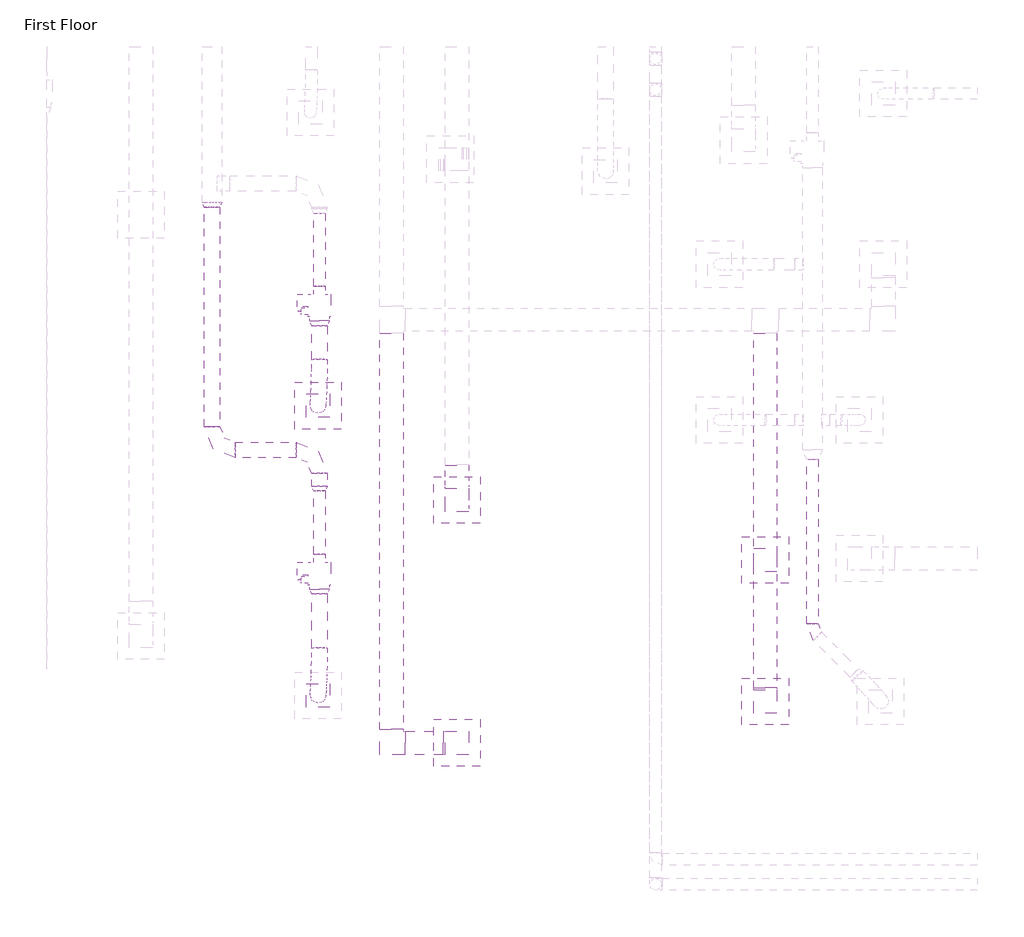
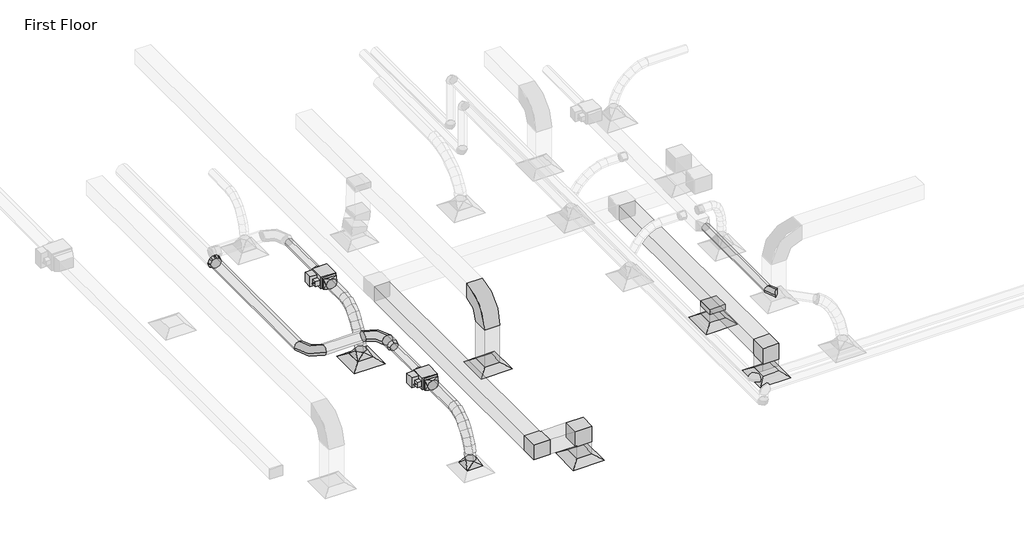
# One storey, part 2 of 61: 17 duct segments, 14 duct fittings, 5 air terminals, 2 proxies.
"""IFC4 building model written with IfcOpenShell, lengths in millimetres."""

from ifc_helpers import new_model, si_unit, point, frame, frame_2d, origin, place, context, project, spatial, polyline, circle_curve, ellipse_curve, trimmed, segment, composite_curve, outline, extrude, transform, mapped, element, save
from ifc_brep_helpers import plane_surface, cylinder_surface, advanced_brep
from components import m_exhaust_grill_er_600_x_600_face_300_x_300_connection_ff221211, m_vav_unit_single_duct_150_mm_ffdab17b, m_rectangular_elbow_mitered_standard_8eee5933, m_rectangular_elbow_radius_1_5_w_86011e9f, m_rectangular_takeoff_standard_c00386d1, m_rectangular_to_round_transition_angle_45_degree_60daae35, m_rectangular_to_round_transition_angle_45_degree_1b7ae117, m_round_elbow_1_5_d_fa134dda, m_round_elbow_1_5_d_b7bc3624, m_round_transition_angle_45_degree_540cdda2, m_round_transition_angle_45_degree_7939cf24

model = new_model("IFC4")

# Units and contexts
model_context = context("Model", 3, world=origin())
ifc_project = project(units=[si_unit("LENGTHUNIT", "METRE", prefix="MILLI")], contexts=[model_context])

# Site, building, storey
site = spatial("IfcSite", under=ifc_project)
building = spatial("IfcBuilding", under=site)
storey = spatial("IfcBuildingStorey", under=building, Name="First Floor", Elevation=0.0)

# Air terminals
placement = place(None, origin())
m_exhaust_grill_er_600_x_600_face_300_x_300_connection_shape = m_exhaust_grill_er_600_x_600_face_300_x_300_connection_ff221211(model_context)
element("IfcAirTerminal", 1, ObjectType="M_Exhaust Grill : ER-600 x 600 Face 300 x 300 Connection", at=placement, inside=storey, context=model_context, shape_type="MappedRepresentation", body=[
    mapped(m_exhaust_grill_er_600_x_600_face_300_x_300_connection_shape, transform((-44725.0192115, 944.0482035, 2680.0), x_axis=(1.0, 0.0, 0.0), y_axis=(0.0, 1.0, 0.0), z_axis=(0.0, 0.0, 1.0))),
])
element("IfcAirTerminal", 2, ObjectType="M_Exhaust Grill : ER-600 x 600 Face 300 x 300 Connection", at=placement, inside=storey, context=model_context, shape_type="MappedRepresentation", body=[
    mapped(m_exhaust_grill_er_600_x_600_face_300_x_300_connection_shape, transform((-40765.5775939, 1476.0224534, 2680.0), x_axis=(1.0, 0.0, 0.0), y_axis=(0.0, 1.0, 0.0), z_axis=(0.0, 0.0, 1.0))),
])
element("IfcAirTerminal", 3, ObjectType="M_Exhaust Grill : ER-600 x 600 Face 300 x 300 Connection", at=placement, inside=storey, context=model_context, shape_type="MappedRepresentation", body=[
    mapped(m_exhaust_grill_er_600_x_600_face_300_x_300_connection_shape, transform((-40765.5775939, 3291.5306721, 2680.0), x_axis=(1.0, 0.0, 0.0), y_axis=(0.0, 1.0, 0.0), z_axis=(0.0, 0.0, 1.0))),
])
element("IfcAirTerminal", 4, ObjectType="M_Return Register : RR-600 x 600 Face 300 x 300 Connection", at=placement, inside=storey, context=model_context, shape_type="MappedRepresentation", body=[
    mapped(m_exhaust_grill_er_600_x_600_face_300_x_300_connection_shape, transform((-44725.0192115, 4061.4140624, 2680.0), x_axis=(1.0, 0.0, 0.0), y_axis=(0.0, 1.0, 0.0), z_axis=(0.0, 0.0, 1.0))),
])
element("IfcAirTerminal", 5, ObjectType="M_Supply Diffuser : SD-600 x 600 Face 300 x 300 Connection", at=placement, inside=storey, context=model_context, shape_type="MappedRepresentation", body=[
    mapped(m_exhaust_grill_er_600_x_600_face_300_x_300_connection_shape, transform((-46507.9513831, 5273.4372457, 2680.0), x_axis=(1.0, 0.0, 0.0), y_axis=(0.0, 1.0, 0.0), z_axis=(0.0, 0.0, 1.0))),
])

# Proxies
m_vav_unit_single_duct_150_mm_shape = m_vav_unit_single_duct_150_mm_ffdab17b(model_context)
element("IfcBuildingElementProxy", 6, Name="M_VAV Unit - Single Duct : 150 mm", ObjectType="M_VAV Unit - Single Duct : 150 mm", at=placement, inside=storey, context=model_context, shape_type="MappedRepresentation", body=[
    mapped(m_vav_unit_single_duct_150_mm_shape, transform((-46489.7634544, 6705.5799415, 3500.0), x_axis=(0.0, -1.0, 0.0), y_axis=(1.0, 0.0, 0.0), z_axis=(0.0, 0.0, 1.0))),
])
element("IfcBuildingElementProxy", 7, Name="M_VAV Unit - Single Duct : 150 mm", ObjectType="M_VAV Unit - Single Duct : 150 mm", at=placement, inside=storey, context=model_context, shape_type="MappedRepresentation", body=[
    mapped(m_vav_unit_single_duct_150_mm_shape, transform((-46489.7634544, 3261.9132991, 3500.0), x_axis=(0.0, -1.0, 0.0), y_axis=(1.0, 0.0, 0.0), z_axis=(0.0, 0.0, 1.0))),
])

# Duct fittings
m_rectangular_elbow_mitered_standard_shape = m_rectangular_elbow_mitered_standard_8eee5933(model_context)
element("IfcDuctFitting", 8, ObjectType="M_Rectangular Elbow - Mitered : Standard", at=placement, inside=storey, context=model_context, shape_type="MappedRepresentation", body=[
    mapped(m_rectangular_elbow_mitered_standard_shape, transform((-40765.5775939, 1476.0224534, 3200.0), x_axis=(0.0, 0.0, 1.0), y_axis=(0.0, 1.0, 0.0), z_axis=(-1.0, 0.0, 0.0))),
])
element("IfcDuctFitting", 9, ObjectType="M_Rectangular Elbow - Mitered : Standard", at=placement, inside=storey, context=model_context, shape_type="MappedRepresentation", body=[
    mapped(m_rectangular_elbow_mitered_standard_shape, transform((-44725.0192115, 944.0482035, 3200.0), x_axis=(0.0, 0.0, 1.0), y_axis=(-1.0, 0.0, 0.0), z_axis=(0.0, -1.0, 0.0))),
])
element("IfcDuctFitting", 10, ObjectType="M_Rectangular Elbow - Mitered : Standard", at=placement, inside=storey, context=model_context, shape_type="MappedRepresentation", body=[
    mapped(m_rectangular_elbow_mitered_standard_shape, transform((-45565.5775939, 944.0482035, 3200.0), x_axis=(0.0, -1.0, 0.0), y_axis=(1.0, 0.0, 0.0), z_axis=(0.0, 0.0, 1.0))),
])
m_rectangular_elbow_radius_1_5_w_shape = m_rectangular_elbow_radius_1_5_w_86011e9f(model_context)
element("IfcDuctFitting", 11, ObjectType="M_Rectangular Elbow - Radius : 1.5 W", at=placement, inside=storey, context=model_context, shape_type="MappedRepresentation", body=[
    mapped(m_rectangular_elbow_radius_1_5_w_shape, transform((-44725.0192115, 4061.4140624, 4000.0), x_axis=(0.0, 0.0, 1.0), y_axis=(0.0, 1.0, 0.0), z_axis=(-1.0, 0.0, 0.0))),
])
m_rectangular_takeoff_standard_shape = m_rectangular_takeoff_standard_c00386d1(model_context)
element("IfcDuctFitting", 12, ObjectType="M_Rectangular Takeoff : Standard", at=placement, inside=storey, context=model_context, shape_type="MappedRepresentation", body=[
    mapped(m_rectangular_takeoff_standard_shape, transform((-40765.5775939, 3291.5306721, 3050.0), x_axis=(0.0, 0.0, -1.0), y_axis=(-1.0, 0.0, 0.0), z_axis=(0.0, 1.0, 0.0))),
])
m_rectangular_to_round_transition_angle_45_degree_shape = m_rectangular_to_round_transition_angle_45_degree_60daae35(model_context)
element("IfcDuctFitting", 13, ObjectType="M_Rectangular to Round Transition - Angle : 45 Degree", at=placement, inside=storey, context=model_context, shape_type="MappedRepresentation", body=[
    mapped(m_rectangular_to_round_transition_angle_45_degree_shape, transform((-46507.9513831, 1552.8513394, 2781.6), x_axis=(0.0, 0.0, 1.0), y_axis=(1.0, 0.0, 0.0), z_axis=(0.0, 1.0, 0.0))),
])
element("IfcDuctFitting", 14, ObjectType="M_Rectangular to Round Transition - Angle : 45 Degree", at=placement, inside=storey, context=model_context, shape_type="MappedRepresentation", body=[
    mapped(m_rectangular_to_round_transition_angle_45_degree_shape, transform((-46507.9513831, 5273.4372457, 2781.6), x_axis=(0.0, 0.0, 1.0), y_axis=(1.0, 0.0, 0.0), z_axis=(0.0, 1.0, 0.0))),
])
m_rectangular_to_round_transition_angle_45_degree_2_shape = m_rectangular_to_round_transition_angle_45_degree_1b7ae117(model_context)
element("IfcDuctFitting", 15, ObjectType="M_Rectangular to Round Transition - Angle : 45 Degree", at=placement, inside=storey, context=model_context, shape_type="MappedRepresentation", body=[
    mapped(m_rectangular_to_round_transition_angle_45_degree_2_shape, transform((-46489.7634544, 2919.1132991, 3619.05), x_axis=(0.0, -1.0, 0.0), y_axis=(1.0, 0.0, 0.0), z_axis=(0.0, 0.0, 1.0))),
])
element("IfcDuctFitting", 16, ObjectType="M_Rectangular to Round Transition - Angle : 45 Degree", at=placement, inside=storey, context=model_context, shape_type="MappedRepresentation", body=[
    mapped(m_rectangular_to_round_transition_angle_45_degree_2_shape, transform((-46489.7634544, 6362.7799415, 3619.05), x_axis=(0.0, -1.0, 0.0), y_axis=(1.0, 0.0, 0.0), z_axis=(0.0, 0.0, 1.0))),
])
m_round_elbow_1_5_d_shape = m_round_elbow_1_5_d_fa134dda(model_context)
element("IfcDuctFitting", 17, ObjectType="M_Round Elbow : 1.5 D", at=placement, inside=storey, context=model_context, shape_type="MappedRepresentation", body=[
    mapped(m_round_elbow_1_5_d_shape, transform((-40159.2211613, 2377.2961075, 3619.1), x_axis=(0.0, -1.0, 0.0), y_axis=(1.0, 0.0, 0.0), z_axis=(0.0, 0.0, 1.0))),
])
m_round_elbow_1_5_d_2_shape = m_round_elbow_1_5_d_b7bc3624(model_context)
element("IfcDuctFitting", 18, ObjectType="M_Round Elbow : 1.5 D", at=placement, inside=storey, context=model_context, shape_type="MappedRepresentation", body=[
    mapped(m_round_elbow_1_5_d_2_shape, transform((-46488.9134544, 4704.8087341, 3609.5), x_axis=(0.0, 1.0, 0.0), y_axis=(-1.0, 0.0, 0.0), z_axis=(0.0, 0.0, 1.0))),
])
element("IfcDuctFitting", 19, ObjectType="M_Round Elbow : 1.5 D", at=placement, inside=storey, context=model_context, shape_type="MappedRepresentation", body=[
    mapped(m_round_elbow_1_5_d_2_shape, transform((-47868.9134544, 4704.8087341, 3609.5), x_axis=(0.0, -1.0, 0.0), y_axis=(1.0, 0.0, 0.0), z_axis=(0.0, 0.0, 1.0))),
])
m_round_transition_angle_45_degree_shape = m_round_transition_angle_45_degree_540cdda2(model_context)
element("IfcDuctFitting", 20, ObjectType="M_Round Transition - Angle : 45 Degree", at=placement, inside=storey, context=model_context, shape_type="MappedRepresentation", body=[
    mapped(m_round_transition_angle_45_degree_shape, transform((-46488.9134544, 4238.5132992, 3609.5), x_axis=(0.0, -1.0, 0.0), y_axis=(1.0, 0.0, 0.0), z_axis=(0.0, 0.0, 1.0))),
])
m_round_transition_angle_45_degree_2_shape = m_round_transition_angle_45_degree_7939cf24(model_context)
element("IfcDuctFitting", 21, ObjectType="M_Round Transition - Angle : 45 Degree", at=placement, inside=storey, context=model_context, shape_type="MappedRepresentation", body=[
    mapped(m_round_transition_angle_45_degree_2_shape, transform((-47868.9134544, 7884.6373686, 3609.5), x_axis=(0.0, -1.0, 0.0), y_axis=(1.0, 0.0, 0.0), z_axis=(0.0, 0.0, 1.0))),
])

# Duct segments
element("IfcDuctSegment", 22, ObjectType="Flex - Round", at=placement, inside=storey, context=model_context, shape_type="AdvancedBrep", body=[
    advanced_brep(
    [(-46389.7657272, 2158.4390928, 3619.1), (-46489.6602129, 2174.4259571, 3520.2793954), (-46589.7611816, 2159.7875087, 3619.1), (-46489.8666959, 2143.8006445, 3717.9206046), (-46390.5509018, 2041.9829232, 3601.0538206), (-46490.3512001, 2071.9395448, 3504.3979853), (-46590.5390321, 2044.417638, 3601.2221547), (-46490.7387337, 2014.4610163, 3697.8779899), (-46407.9850438, 1550.2829009, 2901.9444599), (-46510.4646445, 1453.4787008, 2913.208486), (-46607.9177225, 1555.4197779, 2902.6768963), (-46505.4381218, 1652.223978, 2891.4128703), (-46392.6266795, 1930.2943331, 3550.6573592), (-46491.998277, 1983.3174867, 3464.4096739), (-46592.583957, 1934.389099, 3551.5747466), (-46493.2123595, 1881.3659453, 3637.8224319), (-46395.5526158, 1827.2370962, 3474.0305237), (-46494.4641102, 1896.465986, 3399.8323976), (-46595.4838416, 1832.2494552, 3475.6301752), (-46496.5723472, 1763.0205654, 3549.8283013), (-46398.8994266, 1735.896464, 3377.0563928), (-46497.3880918, 1816.6651412, 3315.1097787), (-46598.8154109, 1741.3247925, 3379.097669), (-46500.3267457, 1660.5561153, 3441.0442831), (-46402.2406378, 1659.388998, 3265.56417), (-46500.3532651, 1748.7682369, 3216.1654904), (-46602.1525798, 1664.9098866, 3267.7403316), (-46504.0399525, 1575.5306477, 3317.1390113), (-46405.1507275, 1600.8616723, 3145.3805756), (-46502.9321065, 1696.9029337, 3109.6621007), (-46605.068311, 1606.2691005, 3147.3237504), (-46507.2869321, 1510.2278391, 3183.0422252), (-46407.2051542, 1563.4682505, 3022.356112), (-46504.7167148, 1664.4205824, 3002.7950729), (-46607.1345869, 1568.660008, 3023.5897297), (-46509.6230264, 1467.7076761, 3043.1507688)],
    [
        (0, 1, circle_curve(frame((-46489.7634544, 2159.1133008, 3619.1), z_axis=(0.006662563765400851, 0.9881835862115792, 0.15313004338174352), x_axis=(0.9999772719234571, -0.006742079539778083, 0.0)), 100.0)),
        (1, 2, circle_curve(frame((-46489.7634544, 2159.1133008, 3619.1), z_axis=(0.006662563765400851, 0.9881835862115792, 0.15313004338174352), x_axis=(0.9999772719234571, -0.006742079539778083, 0.0)), 100.0)),
        (2, 3, circle_curve(frame((-46489.7634544, 2159.1133008, 3619.1), z_axis=(0.006662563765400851, 0.9881835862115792, 0.15313004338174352), x_axis=(0.9999772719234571, -0.006742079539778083, 0.0)), 100.0)),
        (3, 0, circle_curve(frame((-46489.7634544, 2159.1133008, 3619.1), z_axis=(0.006662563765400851, 0.9881835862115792, 0.15313004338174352), x_axis=(0.9999772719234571, -0.006742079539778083, 0.0)), 100.0)),
        (0, 4),
        (4, 5, ellipse_curve(frame((-46490.5449669, 2043.2002806, 3601.1379876), z_axis=(0.011909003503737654, 0.9585194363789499, 0.28477827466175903), x_axis=(-0.0381307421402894, 0.28502664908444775, -0.9577608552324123)), 100.92033, 100.0)),
        (5, 1),
        (5, 6, ellipse_curve(frame((-46490.5449669, 2043.2002806, 3601.1379876), z_axis=(0.011909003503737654, 0.9585194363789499, 0.28477827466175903), x_axis=(-0.0381307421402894, 0.28502664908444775, -0.9577608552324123)), 100.92033, 100.0)),
        (6, 2),
        (6, 7, ellipse_curve(frame((-46490.5449669, 2043.2002806, 3601.1379876), z_axis=(0.011909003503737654, 0.9585194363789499, 0.28477827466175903), x_axis=(-0.0381307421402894, 0.28502664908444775, -0.9577608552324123)), 100.92033, 100.0)),
        (7, 3),
        (7, 4, ellipse_curve(frame((-46490.5449669, 2043.2002806, 3601.1379876), z_axis=(0.011909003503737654, 0.9585194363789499, 0.28477827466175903), x_axis=(-0.0381307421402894, 0.28502664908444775, -0.9577608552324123)), 100.92033, 100.0)),
        (8, 9, circle_curve(frame((-46507.9513831, 1552.8513394, 2902.3106781), z_axis=(-0.006438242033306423, -0.10884935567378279, -0.9940374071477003), x_axis=(0.9996633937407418, -0.025684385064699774, -0.0036621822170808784)), 100.0)),
        (9, 10, circle_curve(frame((-46507.9513831, 1552.8513394, 2902.3106781), z_axis=(-0.006438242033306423, -0.10884935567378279, -0.9940374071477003), x_axis=(0.9996633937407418, -0.025684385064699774, -0.0036621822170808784)), 100.0)),
        (10, 11, circle_curve(frame((-46507.9513831, 1552.8513394, 2902.3106781), z_axis=(-0.006438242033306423, -0.10884935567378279, -0.9940374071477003), x_axis=(0.9996633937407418, -0.025684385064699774, -0.0036621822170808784)), 100.0)),
        (11, 8, circle_curve(frame((-46507.9513831, 1552.8513394, 2902.3106781), z_axis=(-0.006438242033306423, -0.10884935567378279, -0.9940374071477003), x_axis=(0.9996633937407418, -0.025684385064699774, -0.0036621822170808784)), 100.0)),
        (4, 12),
        (12, 13, ellipse_curve(frame((-46492.6053182, 1932.341716, 3551.1160529), z_axis=(0.019973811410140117, 0.861822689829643, 0.506816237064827), x_axis=(-0.027147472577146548, 0.507197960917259, -0.861401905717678)), 100.5834194, 100.0)),
        (13, 5),
        (13, 14, ellipse_curve(frame((-46492.6053182, 1932.341716, 3551.1160529), z_axis=(0.019973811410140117, 0.861822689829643, 0.506816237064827), x_axis=(-0.027147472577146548, 0.507197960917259, -0.861401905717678)), 100.5834194, 100.0)),
        (14, 6),
        (14, 15, ellipse_curve(frame((-46492.6053182, 1932.341716, 3551.1160529), z_axis=(0.019973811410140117, 0.861822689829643, 0.506816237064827), x_axis=(-0.027147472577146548, 0.507197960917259, -0.861401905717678)), 100.5834194, 100.0)),
        (15, 7),
        (15, 12, ellipse_curve(frame((-46492.6053182, 1932.341716, 3551.1160529), z_axis=(0.019973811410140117, 0.861822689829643, 0.506816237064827), x_axis=(-0.027147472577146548, 0.507197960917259, -0.861401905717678)), 100.5834194, 100.0)),
        (12, 16),
        (16, 17, ellipse_curve(frame((-46495.5182287, 1829.7432757, 3474.8303494), z_axis=(0.024039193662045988, 0.7467392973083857, 0.6646822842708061), x_axis=(-0.013302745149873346, 0.6650544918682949, -0.746676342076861)), 100.3880892, 100.0)),
        (17, 13),
        (17, 18, ellipse_curve(frame((-46495.5182287, 1829.7432757, 3474.8303494), z_axis=(0.024039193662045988, 0.7467392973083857, 0.6646822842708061), x_axis=(-0.013302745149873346, 0.6650544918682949, -0.746676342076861)), 100.3880892, 100.0)),
        (18, 14),
        (18, 19, ellipse_curve(frame((-46495.5182287, 1829.7432757, 3474.8303494), z_axis=(0.024039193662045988, 0.7467392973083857, 0.6646822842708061), x_axis=(-0.013302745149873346, 0.6650544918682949, -0.746676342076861)), 100.3880892, 100.0)),
        (19, 15),
        (19, 16, ellipse_curve(frame((-46495.5182287, 1829.7432757, 3474.8303494), z_axis=(0.024039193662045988, 0.7467392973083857, 0.6646822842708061), x_axis=(-0.013302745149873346, 0.6650544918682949, -0.746676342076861)), 100.3880892, 100.0)),
        (16, 20),
        (20, 21, ellipse_curve(frame((-46498.8574188, 1738.6106283, 3378.0770309), z_axis=(0.02498261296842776, 0.6273927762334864, 0.7783021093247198), x_axis=(0.0026811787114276, 0.7785002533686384, -0.6276385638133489)), 100.2973048, 100.0)),
        (21, 17),
        (21, 22, ellipse_curve(frame((-46498.8574188, 1738.6106283, 3378.0770309), z_axis=(0.02498261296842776, 0.6273927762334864, 0.7783021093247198), x_axis=(0.0026811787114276, 0.7785002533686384, -0.6276385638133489)), 100.2973048, 100.0)),
        (22, 18),
        (22, 23, ellipse_curve(frame((-46498.8574188, 1738.6106283, 3378.0770309), z_axis=(0.02498261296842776, 0.6273927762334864, 0.7783021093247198), x_axis=(0.0026811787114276, 0.7785002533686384, -0.6276385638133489)), 100.2973048, 100.0)),
        (23, 19),
        (23, 20, ellipse_curve(frame((-46498.8574188, 1738.6106283, 3378.0770309), z_axis=(0.02498261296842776, 0.6273927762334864, 0.7783021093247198), x_axis=(0.0026811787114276, 0.7785002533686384, -0.6276385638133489)), 100.2973048, 100.0)),
        (20, 24),
        (24, 25, ellipse_curve(frame((-46502.1966088, 1662.1494423, 3266.6522508), z_axis=(0.023297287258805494, 0.5030600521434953, 0.8639373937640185), x_axis=(0.019838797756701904, 0.8637691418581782, -0.5034970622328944)), 100.2752542, 100.0)),
        (25, 21),
        (25, 26, ellipse_curve(frame((-46502.1966088, 1662.1494423, 3266.6522508), z_axis=(0.023297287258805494, 0.5030600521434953, 0.8639373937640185), x_axis=(0.019838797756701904, 0.8637691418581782, -0.5034970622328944)), 100.2752542, 100.0)),
        (26, 22),
        (26, 27, ellipse_curve(frame((-46502.1966088, 1662.1494423, 3266.6522508), z_axis=(0.023297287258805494, 0.5030600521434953, 0.8639373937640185), x_axis=(0.019838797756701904, 0.8637691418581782, -0.5034970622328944)), 100.2752542, 100.0)),
        (27, 23),
        (27, 24, ellipse_curve(frame((-46502.1966088, 1662.1494423, 3266.6522508), z_axis=(0.023297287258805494, 0.5030600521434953, 0.8639373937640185), x_axis=(0.019838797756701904, 0.8637691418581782, -0.5034970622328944)), 100.2752542, 100.0)),
        (24, 28),
        (28, 29, ellipse_curve(frame((-46505.1095193, 1603.5653864, 3146.352163), z_axis=(0.018929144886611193, 0.36539209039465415, 0.9306612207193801), x_axis=(0.03663496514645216, 0.9299494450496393, -0.36585777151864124)), 100.3135765, 100.0)),
        (29, 25),
        (29, 30, ellipse_curve(frame((-46505.1095193, 1603.5653864, 3146.352163), z_axis=(0.018929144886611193, 0.36539209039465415, 0.9306612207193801), x_axis=(0.03663496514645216, 0.9299494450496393, -0.36585777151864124)), 100.3135765, 100.0)),
        (30, 26),
        (30, 31, ellipse_curve(frame((-46505.1095193, 1603.5653864, 3146.352163), z_axis=(0.018929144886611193, 0.36539209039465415, 0.9306612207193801), x_axis=(0.03663496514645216, 0.9299494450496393, -0.36585777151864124)), 100.3135765, 100.0)),
        (31, 27),
        (31, 28, ellipse_curve(frame((-46505.1095193, 1603.5653864, 3146.352163), z_axis=(0.018929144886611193, 0.36539209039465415, 0.9306612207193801), x_axis=(0.03663496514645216, 0.9299494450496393, -0.36585777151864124)), 100.3135765, 100.0)),
        (28, 32),
        (32, 33, ellipse_curve(frame((-46507.1698706, 1566.0641293, 3022.9729208), z_axis=(0.011255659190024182, 0.2006827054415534, 0.9795916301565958), x_axis=(0.05128328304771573, 0.9782485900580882, -0.20099681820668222)), 100.4351479, 100.0)),
        (33, 29),
        (33, 34, ellipse_curve(frame((-46507.1698706, 1566.0641293, 3022.9729208), z_axis=(0.011255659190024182, 0.2006827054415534, 0.9795916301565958), x_axis=(0.05128328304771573, 0.9782485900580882, -0.20099681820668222)), 100.4351479, 100.0)),
        (34, 30),
        (34, 35, ellipse_curve(frame((-46507.1698706, 1566.0641293, 3022.9729208), z_axis=(0.011255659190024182, 0.2006827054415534, 0.9795916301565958), x_axis=(0.05128328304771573, 0.9782485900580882, -0.20099681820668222)), 100.4351479, 100.0)),
        (35, 31),
        (35, 32, ellipse_curve(frame((-46507.1698706, 1566.0641293, 3022.9729208), z_axis=(0.011255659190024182, 0.2006827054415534, 0.9795916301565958), x_axis=(0.05128328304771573, 0.9782485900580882, -0.20099681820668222)), 100.4351479, 100.0)),
        (32, 8),
        (11, 33),
        (10, 34),
        (9, 35),
    ],
    [
        plane_surface(frame((-46489.7634544, 2174.426645, 3520.279448), z_axis=(0.006662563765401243, 0.9881835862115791, 0.15313004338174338), x_axis=(0.9999778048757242, -0.006583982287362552, -0.0010202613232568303))),
        cylinder_surface(frame((-46489.7634544, 2159.1133008, 3619.1), z_axis=(0.006662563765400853, 0.9881835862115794, 0.15313004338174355), x_axis=(0.9999772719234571, -0.006742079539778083, 0.0)), 100.0),
        plane_surface(frame((-46507.9513831, 1652.2571404, 2891.4255169), z_axis=(-0.006438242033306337, -0.10884935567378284, -0.9940374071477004), x_axis=(0.9999792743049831, -0.000700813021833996, -0.006399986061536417))),
        cylinder_surface(frame((-46490.5449669, 2043.2002806, 3601.1379876), z_axis=(0.01693823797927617, 0.9113730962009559, 0.4112325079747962), x_axis=(0.999847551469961, -0.017182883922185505, -0.0031019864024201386)), 100.0),
        cylinder_surface(frame((-46492.6053182, 1932.341716, 3551.1160529), z_axis=(0.022777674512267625, 0.8022745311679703, 0.5965205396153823), x_axis=(0.9997041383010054, -0.02337082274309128, -0.006740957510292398)), 100.0),
        cylinder_surface(frame((-46495.5182287, 1829.7432757, 3474.8303494), z_axis=(0.02511484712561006, 0.6854304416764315, 0.7277048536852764), x_axis=(0.9996031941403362, -0.026506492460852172, -0.009532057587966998)), 100.0),
        cylinder_surface(frame((-46498.8574188, 1738.6106283, 3378.0770309), z_axis=(0.024702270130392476, 0.5656356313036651, 0.8242852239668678), x_axis=(0.9995570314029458, -0.02766578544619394, -0.01097020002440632)), 100.0),
        cylinder_surface(frame((-46502.1966088, 1662.1494423, 3266.6522508), z_axis=(0.021764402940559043, 0.4377226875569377, 0.8988465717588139), x_axis=(0.9995620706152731, -0.027556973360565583, -0.010783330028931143)), 100.0),
        cylinder_surface(frame((-46505.1095193, 1603.5653864, 3146.352163), z_axis=(0.01597554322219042, 0.2907770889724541, 0.9566574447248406), x_axis=(0.9996068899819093, -0.0266918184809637, -0.008579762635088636)), 100.0),
        cylinder_surface(frame((-46507.1698706, 1566.0641293, 3022.9729208), z_axis=(0.006438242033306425, 0.10884935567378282, 0.9940374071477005), x_axis=(0.9996633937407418, -0.025684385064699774, -0.0036621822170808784)), 100.0),
    ],
    [
        (0, [[1, 2, 3, 4]]),
        (1, [[-1, 5, 6, 7]]),
        (1, [[-2, -7, 8, 9]]),
        (1, [[-3, -9, 10, 11]]),
        (1, [[-4, -11, 12, -5]]),
        (2, [[13, 14, 15, 16]]),
        (3, [[-6, 17, 18, 19]]),
        (3, [[-8, -19, 20, 21]]),
        (3, [[-10, -21, 22, 23]]),
        (3, [[-12, -23, 24, -17]]),
        (4, [[-18, 25, 26, 27]]),
        (4, [[-20, -27, 28, 29]]),
        (4, [[-22, -29, 30, 31]]),
        (4, [[-24, -31, 32, -25]]),
        (5, [[-26, 33, 34, 35]]),
        (5, [[-28, -35, 36, 37]]),
        (5, [[-30, -37, 38, 39]]),
        (5, [[-32, -39, 40, -33]]),
        (6, [[-34, 41, 42, 43]]),
        (6, [[-36, -43, 44, 45]]),
        (6, [[-38, -45, 46, 47]]),
        (6, [[-40, -47, 48, -41]]),
        (7, [[-42, 49, 50, 51]]),
        (7, [[-44, -51, 52, 53]]),
        (7, [[-46, -53, 54, 55]]),
        (7, [[-48, -55, 56, -49]]),
        (8, [[-50, 57, 58, 59]]),
        (8, [[-52, -59, 60, 61]]),
        (8, [[-54, -61, 62, 63]]),
        (8, [[-56, -63, 64, -57]]),
        (9, [[-58, 65, -16, 66]]),
        (9, [[-60, -66, -15, 67]]),
        (9, [[-62, -67, -14, 68]]),
        (9, [[-64, -68, -13, -65]]),
    ],
),
])
element("IfcDuctSegment", 23, ObjectType="Flex - Round", at=placement, inside=storey, context=model_context, shape_type="AdvancedBrep", body=[
    advanced_brep(
    [(-46389.765798, 5862.0953159, 3619.1), (-46489.6561805, 5878.4485639, 3520.335215), (-46589.7611108, 5863.464567, 3619.1), (-46489.8707283, 5847.111319, 3717.864785), (-46390.5511083, 5747.3914591, 3600.9018571), (-46490.343271, 5778.09087, 3504.4131378), (-46590.5388256, 5749.8701245, 3601.0778693), (-46490.7466629, 5719.1707136, 3697.5665886), (-46407.9859482, 5270.8355733, 2901.9323726), (-46510.4988798, 5174.0243356, 2912.8265502), (-46607.9168181, 5276.0389181, 2902.6889836), (-46505.4038865, 5372.8501558, 2891.794806), (-46392.6274888, 5638.0924576, 3550.1282292), (-46491.9724939, 5692.3298849, 3464.573832), (-46592.5831476, 5642.2586569, 3551.0881664), (-46493.2381425, 5588.0212296, 3636.6425636), (-46395.553875, 5537.8054146, 3473.0431844), (-46494.4232204, 5608.3436637, 3400.0183179), (-46595.4825824, 5542.8952354, 3474.7130578), (-46496.613237, 5472.3569863, 3547.7379243), (-46398.9008514, 5449.3404686, 3375.6612665), (-46497.3398279, 5531.2539301, 3315.1581959), (-46598.8139861, 5454.8418956, 3377.7842347), (-46500.3750096, 5372.928434, 3438.2873053), (-46402.2420136, 5375.5399395, 3263.9377721), (-46500.3049648, 5465.7591541, 3216.0084292), (-46602.151204, 5381.1284916, 3266.1926352), (-46504.0882528, 5290.909277, 3314.1219781), (-46405.1519299, 5319.279126, 3143.8247561), (-46502.8890529, 5415.7979571, 3109.3446666), (-46605.0671086, 5324.7518992, 3145.8324391), (-46507.3299856, 5228.2330681, 3180.3125287), (-46407.2061223, 5283.4422213, 3021.2995683), (-46504.6808381, 5384.53894, 3002.4711245), (-46607.1336189, 5288.7000993, 3022.5725317), (-46509.6589031, 5187.6033806, 3041.4009754)],
    [
        (0, 1, circle_curve(frame((-46489.7634544, 5862.7799415, 3619.1), z_axis=(0.006761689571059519, 0.9876247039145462, 0.1566898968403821), x_axis=(0.9999765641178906, -0.00684625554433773, 0.0)), 100.0)),
        (1, 2, circle_curve(frame((-46489.7634544, 5862.7799415, 3619.1), z_axis=(0.006761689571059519, 0.9876247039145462, 0.1566898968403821), x_axis=(0.9999765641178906, -0.00684625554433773, 0.0)), 100.0)),
        (2, 3, circle_curve(frame((-46489.7634544, 5862.7799415, 3619.1), z_axis=(0.006761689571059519, 0.9876247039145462, 0.1566898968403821), x_axis=(0.9999765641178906, -0.00684625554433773, 0.0)), 100.0)),
        (3, 0, circle_curve(frame((-46489.7634544, 5862.7799415, 3619.1), z_axis=(0.006761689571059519, 0.9876247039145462, 0.1566898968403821), x_axis=(0.9999765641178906, -0.00684625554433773, 0.0)), 100.0)),
        (0, 4),
        (4, 5, ellipse_curve(frame((-46490.5449669, 5748.6307918, 3600.9898632), z_axis=(0.01211063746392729, 0.9564112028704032, 0.2917720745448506), x_axis=(-0.03780338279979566, 0.2920227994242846, -0.9556639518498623)), 100.9718586, 100.0)),
        (5, 1),
        (5, 6, ellipse_curve(frame((-46490.5449669, 5748.6307918, 3600.9898632), z_axis=(0.01211063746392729, 0.9564112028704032, 0.2917720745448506), x_axis=(-0.03780338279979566, 0.2920227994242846, -0.9556639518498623)), 100.9718586, 100.0)),
        (6, 2),
        (6, 7, ellipse_curve(frame((-46490.5449669, 5748.6307918, 3600.9898632), z_axis=(0.01211063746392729, 0.9564112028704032, 0.2917720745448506), x_axis=(-0.03780338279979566, 0.2920227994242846, -0.9556639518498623)), 100.9718586, 100.0)),
        (7, 3),
        (7, 4, ellipse_curve(frame((-46490.5449669, 5748.6307918, 3600.9898632), z_axis=(0.01211063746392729, 0.9564112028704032, 0.2917720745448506), x_axis=(-0.03780338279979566, 0.2920227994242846, -0.9556639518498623)), 100.9718586, 100.0)),
        (8, 9, circle_curve(frame((-46507.9513831, 5273.4372457, 2902.3106781), z_axis=(-0.0064967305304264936, -0.10502599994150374, -0.9944482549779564), x_axis=(0.9996543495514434, -0.026016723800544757, -0.003783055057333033)), 100.0)),
        (9, 10, circle_curve(frame((-46507.9513831, 5273.4372457, 2902.3106781), z_axis=(-0.0064967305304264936, -0.10502599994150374, -0.9944482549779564), x_axis=(0.9996543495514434, -0.026016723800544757, -0.003783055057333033)), 100.0)),
        (10, 11, circle_curve(frame((-46507.9513831, 5273.4372457, 2902.3106781), z_axis=(-0.0064967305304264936, -0.10502599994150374, -0.9944482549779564), x_axis=(0.9996543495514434, -0.026016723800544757, -0.003783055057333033)), 100.0)),
        (11, 8, circle_curve(frame((-46507.9513831, 5273.4372457, 2902.3106781), z_axis=(-0.0064967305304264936, -0.10502599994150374, -0.9944482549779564), x_axis=(0.9996543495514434, -0.026016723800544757, -0.003783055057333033)), 100.0)),
        (4, 12),
        (12, 13, ellipse_curve(frame((-46492.6053182, 5640.1755573, 3550.6081978), z_axis=(0.020301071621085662, 0.8549012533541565, 0.518393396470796), x_axis=(-0.02682636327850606, 0.5187793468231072, -0.8544871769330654)), 100.6107474, 100.0)),
        (13, 5),
        (13, 14, ellipse_curve(frame((-46492.6053182, 5640.1755573, 3550.6081978), z_axis=(0.020301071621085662, 0.8549012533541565, 0.518393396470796), x_axis=(-0.02682636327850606, 0.5187793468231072, -0.8544871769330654)), 100.6107474, 100.0)),
        (14, 6),
        (14, 15, ellipse_curve(frame((-46492.6053182, 5640.1755573, 3550.6081978), z_axis=(0.020301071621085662, 0.8549012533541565, 0.518393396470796), x_axis=(-0.02682636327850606, 0.5187793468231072, -0.8544871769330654)), 100.6107474, 100.0)),
        (15, 7),
        (15, 12, ellipse_curve(frame((-46492.6053182, 5640.1755573, 3550.6081978), z_axis=(0.020301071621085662, 0.8549012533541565, 0.518393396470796), x_axis=(-0.02682636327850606, 0.5187793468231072, -0.8544871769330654)), 100.6107474, 100.0)),
        (12, 16),
        (16, 17, ellipse_curve(frame((-46495.5182287, 5540.350325, 3473.8781211), z_axis=(0.02437683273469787, 0.7353221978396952, 0.6772791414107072), x_axis=(-0.012953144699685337, 0.6776559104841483, -0.7352650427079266)), 100.3972579, 100.0)),
        (17, 13),
        (17, 18, ellipse_curve(frame((-46495.5182287, 5540.350325, 3473.8781211), z_axis=(0.02437683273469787, 0.7353221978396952, 0.6772791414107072), x_axis=(-0.012953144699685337, 0.6776559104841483, -0.7352650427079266)), 100.3972579, 100.0)),
        (18, 14),
        (18, 19, ellipse_curve(frame((-46495.5182287, 5540.350325, 3473.8781211), z_axis=(0.02437683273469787, 0.7353221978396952, 0.6772791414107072), x_axis=(-0.012953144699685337, 0.6776559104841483, -0.7352650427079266)), 100.3972579, 100.0)),
        (19, 15),
        (19, 16, ellipse_curve(frame((-46495.5182287, 5540.350325, 3473.8781211), z_axis=(0.02437683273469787, 0.7353221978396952, 0.6772791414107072), x_axis=(-0.012953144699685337, 0.6776559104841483, -0.7352650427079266)), 100.3972579, 100.0)),
        (16, 20),
        (20, 21, ellipse_curve(frame((-46498.8574188, 5452.0911821, 3376.7227506), z_axis=(0.02526291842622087, 0.6134026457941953, 0.7893661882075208), x_axis=(0.0031679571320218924, 0.7895651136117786, -0.61365861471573)), 100.2957959, 100.0)),
        (21, 17),
        (21, 22, ellipse_curve(frame((-46498.8574188, 5452.0911821, 3376.7227506), z_axis=(0.02526291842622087, 0.6134026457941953, 0.7893661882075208), x_axis=(0.0031679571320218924, 0.7895651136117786, -0.61365861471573)), 100.2957959, 100.0)),
        (22, 18),
        (22, 23, ellipse_curve(frame((-46498.8574188, 5452.0911821, 3376.7227506), z_axis=(0.02526291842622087, 0.6134026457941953, 0.7893661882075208), x_axis=(0.0031679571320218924, 0.7895651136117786, -0.61365861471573)), 100.2957959, 100.0)),
        (23, 19),
        (23, 20, ellipse_curve(frame((-46498.8574188, 5452.0911821, 3376.7227506), z_axis=(0.02526291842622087, 0.6134026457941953, 0.7893661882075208), x_axis=(0.0031679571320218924, 0.7895651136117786, -0.61365861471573)), 100.2957959, 100.0)),
        (20, 24),
        (24, 25, ellipse_curve(frame((-46502.1966088, 5378.3342156, 3265.0652036), z_axis=(0.0235018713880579, 0.4888315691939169, 0.8720615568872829), x_axis=(0.02068645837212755, 0.8718779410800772, -0.48928613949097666)), 100.2659738, 100.0)),
        (25, 21),
        (25, 26, ellipse_curve(frame((-46502.1966088, 5378.3342156, 3265.0652036), z_axis=(0.0235018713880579, 0.4888315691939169, 0.8720615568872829), x_axis=(0.02068645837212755, 0.8718779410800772, -0.48928613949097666)), 100.2659738, 100.0)),
        (26, 22),
        (26, 27, ellipse_curve(frame((-46502.1966088, 5378.3342156, 3265.0652036), z_axis=(0.0235018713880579, 0.4888315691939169, 0.8720615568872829), x_axis=(0.02068645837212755, 0.8718779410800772, -0.48928613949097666)), 100.2659738, 100.0)),
        (27, 23),
        (27, 24, ellipse_curve(frame((-46502.1966088, 5378.3342156, 3265.0652036), z_axis=(0.0235018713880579, 0.4888315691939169, 0.8720615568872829), x_axis=(0.02068645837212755, 0.8718779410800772, -0.48928613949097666)), 100.2659738, 100.0)),
        (24, 28),
        (28, 29, ellipse_curve(frame((-46505.1095193, 5322.0155126, 3144.8285976), z_axis=(0.019067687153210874, 0.35342130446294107, 0.9352699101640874), x_axis=(0.03809210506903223, 0.9345040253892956, -0.3539084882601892)), 100.2955727, 100.0)),
        (29, 25),
        (29, 30, ellipse_curve(frame((-46505.1095193, 5322.0155126, 3144.8285976), z_axis=(0.019067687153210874, 0.35342130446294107, 0.9352699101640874), x_axis=(0.03809210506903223, 0.9345040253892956, -0.3539084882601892)), 100.2955727, 100.0)),
        (30, 26),
        (30, 31, ellipse_curve(frame((-46505.1095193, 5322.0155126, 3144.8285976), z_axis=(0.019067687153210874, 0.35342130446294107, 0.9352699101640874), x_axis=(0.03809210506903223, 0.9345040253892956, -0.3539084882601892)), 100.2955727, 100.0)),
        (31, 27),
        (31, 28, ellipse_curve(frame((-46505.1095193, 5322.0155126, 3144.8285976), z_axis=(0.019067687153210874, 0.35342130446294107, 0.9352699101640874), x_axis=(0.03809210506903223, 0.9345040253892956, -0.3539084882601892)), 100.2955727, 100.0)),
        (28, 32),
        (32, 33, ellipse_curve(frame((-46507.1698706, 5286.0711603, 3021.93605), z_axis=(0.011338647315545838, 0.19363714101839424, 0.9810076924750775), x_axis=(0.05349074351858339, 0.9795485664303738, -0.19396738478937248)), 100.4044304, 100.0)),
        (33, 29),
        (33, 34, ellipse_curve(frame((-46507.1698706, 5286.0711603, 3021.93605), z_axis=(0.011338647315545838, 0.19363714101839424, 0.9810076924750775), x_axis=(0.05349074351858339, 0.9795485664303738, -0.19396738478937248)), 100.4044304, 100.0)),
        (34, 30),
        (34, 35, ellipse_curve(frame((-46507.1698706, 5286.0711603, 3021.93605), z_axis=(0.011338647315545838, 0.19363714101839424, 0.9810076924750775), x_axis=(0.05349074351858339, 0.9795485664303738, -0.19396738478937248)), 100.4044304, 100.0)),
        (35, 31),
        (35, 32, ellipse_curve(frame((-46507.1698706, 5286.0711603, 3021.93605), z_axis=(0.011338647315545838, 0.19363714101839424, 0.9810076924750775), x_axis=(0.05349074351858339, 0.9795485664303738, -0.19396738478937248)), 100.4044304, 100.0)),
        (32, 8),
        (11, 33),
        (10, 34),
        (9, 35),
    ],
    [
        plane_surface(frame((-46489.7634544, 5878.4492894, 3520.3352718), z_axis=(0.006761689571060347, 0.9876247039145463, 0.15668989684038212), x_axis=(0.9999771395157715, -0.006678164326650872, -0.0010595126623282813))),
        cylinder_surface(frame((-46489.7634544, 5862.7799415, 3619.1), z_axis=(0.00676168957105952, 0.9876247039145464, 0.15668989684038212), x_axis=(0.9999765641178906, -0.00684625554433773, 0.0)), 100.0),
        plane_surface(frame((-46507.9513831, 5372.8841699, 2891.8078565), z_axis=(-0.006496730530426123, -0.10502599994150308, -0.9944482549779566), x_axis=(0.9999788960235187, -0.0006823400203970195, -0.006460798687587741))),
        cylinder_surface(frame((-46490.5449669, 5748.6307918, 3600.9898632), z_axis=(0.01722645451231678, 0.9067867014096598, 0.42123761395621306), x_axis=(0.9998418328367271, -0.01748636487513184, -0.003245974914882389)), 100.0),
        cylinder_surface(frame((-46492.6053182, 5640.1755573, 3550.6081978), z_axis=(0.023129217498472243, 0.7926366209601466, 0.6092554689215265), x_axis=(0.9996929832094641, -0.023754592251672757, -0.007046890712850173)), 100.0),
        cylinder_surface(frame((-46495.5182287, 5540.350325, 3473.8781211), z_axis=(0.025431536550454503, 0.6721886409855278, 0.7399430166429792), x_axis=(0.9995891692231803, -0.026886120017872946, -0.009931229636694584)), 100.0),
        cylinder_surface(frame((-46498.8574188, 5452.0911821, 3376.7227506), z_axis=(0.024945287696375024, 0.5509985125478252, 0.8341333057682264), x_axis=(0.9995426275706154, -0.028016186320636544, -0.0113854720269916)), 100.0),
        cylinder_surface(frame((-46502.1966088, 5378.3342156, 3265.0652036), z_axis=(0.021933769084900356, 0.42407119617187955, 0.9053632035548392), x_axis=(0.9995488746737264, -0.02788624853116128, -0.011153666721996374)), 100.0),
        cylinder_surface(frame((-46505.1095193, 5322.0155126, 3144.8285976), z_axis=(0.016089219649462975, 0.28068833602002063, 0.9596641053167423), x_axis=(0.9995957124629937, -0.027018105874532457, -0.00885627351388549)), 100.0),
        cylinder_surface(frame((-46507.1698706, 5286.0711603, 3021.93605), z_axis=(0.006496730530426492, 0.10502599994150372, 0.9944482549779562), x_axis=(0.9996543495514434, -0.026016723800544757, -0.003783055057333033)), 100.0),
    ],
    [
        (0, [[1, 2, 3, 4]]),
        (1, [[-1, 5, 6, 7]]),
        (1, [[-2, -7, 8, 9]]),
        (1, [[-3, -9, 10, 11]]),
        (1, [[-4, -11, 12, -5]]),
        (2, [[13, 14, 15, 16]]),
        (3, [[-6, 17, 18, 19]]),
        (3, [[-8, -19, 20, 21]]),
        (3, [[-10, -21, 22, 23]]),
        (3, [[-12, -23, 24, -17]]),
        (4, [[-18, 25, 26, 27]]),
        (4, [[-20, -27, 28, 29]]),
        (4, [[-22, -29, 30, 31]]),
        (4, [[-24, -31, 32, -25]]),
        (5, [[-26, 33, 34, 35]]),
        (5, [[-28, -35, 36, 37]]),
        (5, [[-30, -37, 38, 39]]),
        (5, [[-32, -39, 40, -33]]),
        (6, [[-34, 41, 42, 43]]),
        (6, [[-36, -43, 44, 45]]),
        (6, [[-38, -45, 46, 47]]),
        (6, [[-40, -47, 48, -41]]),
        (7, [[-42, 49, 50, 51]]),
        (7, [[-44, -51, 52, 53]]),
        (7, [[-46, -53, 54, 55]]),
        (7, [[-48, -55, 56, -49]]),
        (8, [[-50, 57, 58, 59]]),
        (8, [[-52, -59, 60, 61]]),
        (8, [[-54, -61, 62, 63]]),
        (8, [[-56, -63, 64, -57]]),
        (9, [[-58, 65, -16, 66]]),
        (9, [[-60, -66, -15, 67]]),
        (9, [[-62, -67, -14, 68]]),
        (9, [[-64, -68, -13, -65]]),
    ],
),
])
element("IfcDuctSegment", 24, ObjectType="Mitered Elbows / Taps", at=placement, inside=storey, context=model_context, shape_type="SweptSolid", body=[
    extrude(outline(polyline([(-40615.5775939, 1651.0224534), (-40915.5775939, 1651.0224534), (-40915.5775939, 6201.0224534), (-40615.5775939, 6201.0224534), (-40615.5775939, 1651.0224534)])), frame((0.0, 0.0, 3050.0), z_axis=(0.0, 0.0, 1.0), x_axis=(1.0, 0.0, 0.0)), (0.0, 0.0, 1.0), 300.0),
])
element("IfcDuctSegment", 25, ObjectType="Mitered Elbows / Taps", at=placement, inside=storey, context=model_context, shape_type="SweptSolid", body=[
    extrude(outline(polyline([(-40915.5775939, 1626.0224534), (-40615.5775939, 1626.0224534), (-40615.5775939, 1326.0224534), (-40915.5775939, 1326.0224534), (-40915.5775939, 1626.0224534)])), frame((0.0, 0.0, 2781.6), z_axis=(0.0, 0.0, 1.0), x_axis=(1.0, 0.0, 0.0)), (0.0, 0.0, 1.0), 243.4),
])
element("IfcDuctSegment", 26, ObjectType="Mitered Elbows / Taps", at=placement, inside=storey, context=model_context, shape_type="SweptSolid", body=[
    extrude(outline(polyline([(-40915.5775939, 3141.5306721), (-40915.5775939, 3441.5306721), (-40615.5775939, 3441.5306721), (-40615.5775939, 3141.5306721), (-40915.5775939, 3141.5306721)])), frame((0.0, 0.0, 2781.6), z_axis=(0.0, 0.0, 1.0), x_axis=(1.0, 0.0, 0.0)), (0.0, 0.0, 1.0), 168.4),
])
element("IfcDuctSegment", 27, ObjectType="Mitered Elbows / Taps", at=placement, inside=storey, context=model_context, shape_type="SweptSolid", body=[
    extrude(outline(polyline([(-45715.5775939, 6201.0224534), (-45415.5775939, 6201.0224534), (-45415.5775939, 1119.0482035), (-45715.5775939, 1119.0482035), (-45715.5775939, 6201.0224534)])), frame((0.0, 0.0, 3050.0), z_axis=(0.0, 0.0, 1.0), x_axis=(1.0, 0.0, 0.0)), (0.0, 0.0, 1.0), 300.0),
])
element("IfcDuctSegment", 28, ObjectType="Mitered Elbows / Taps", at=placement, inside=storey, context=model_context, shape_type="SweptSolid", body=[
    extrude(outline(polyline([(-44900.0192115, 1094.0482035), (-44900.0192115, 794.0482035), (-45390.5775939, 794.0482035), (-45390.5775939, 1094.0482035), (-44900.0192115, 1094.0482035)])), frame((0.0, 0.0, 3050.0), z_axis=(0.0, 0.0, 1.0), x_axis=(1.0, 0.0, 0.0)), (0.0, 0.0, 1.0), 300.0),
])
element("IfcDuctSegment", 29, ObjectType="Mitered Elbows / Taps", at=placement, inside=storey, context=model_context, shape_type="SweptSolid", body=[
    extrude(outline(polyline([(-44875.0192115, 794.0482035), (-44875.0192115, 1094.0482035), (-44575.0192115, 1094.0482035), (-44575.0192115, 794.0482035), (-44875.0192115, 794.0482035)])), frame((0.0, 0.0, 2781.6), z_axis=(0.0, 0.0, 1.0), x_axis=(1.0, 0.0, 0.0)), (0.0, 0.0, 1.0), 243.4),
])
element("IfcDuctSegment", 30, ObjectType="Radius Elbows / Taps", at=placement, inside=storey, context=model_context, shape_type="SweptSolid", body=[
    extrude(outline(polyline([(-44875.0192115, 4211.4140624), (-44575.0192115, 4211.4140624), (-44575.0192115, 3911.4140624), (-44875.0192115, 3911.4140624), (-44875.0192115, 4211.4140624)])), frame((0.0, 0.0, 2781.6), z_axis=(0.0, 0.0, 1.0), x_axis=(1.0, 0.0, 0.0)), (0.0, 0.0, 1.0), 768.4),
])
element("IfcDuctSegment", 31, ObjectType="Taps", at=placement, inside=storey, context=model_context, shape_type="SweptSolid", body=[
    extrude(outline(composite_curve([segment(trimmed(circle_curve(frame_2d((3619.1, -46489.7634544)), 100.0), [point((3619.1, -46589.7634544))], [point((3519.1, -46489.7634544))], False, "CARTESIAN"), True, "CONTINUOUS"), segment(trimmed(circle_curve(frame_2d((3619.1, -46489.7634544)), 100.0), [point((3519.1, -46489.7634544))], [point((3619.1, -46389.7634544))], False, "CARTESIAN"), True, "CONTINUOUS"), segment(trimmed(circle_curve(frame_2d((3619.1, -46489.7634544)), 100.0), [point((3619.1, -46389.7634544))], [point((3719.1, -46489.7634544))], False, "CARTESIAN"), True, "CONTINUOUS"), segment(trimmed(circle_curve(frame_2d((3619.1, -46489.7634544)), 100.0), [point((3719.1, -46489.7634544))], [point((3619.1, -46589.7634544))], False, "CARTESIAN"), True, "CONTINUOUS")], self_intersect=False)), frame((0.0, 2159.1133008, 0.0), z_axis=(0.0, 1.0, 0.0), x_axis=(0.0, 0.0, 1.0)), (0.0, 0.0, 1.0), 699.6446593),
])
element("IfcDuctSegment", 32, ObjectType="Taps", at=placement, inside=storey, context=model_context, shape_type="SweptSolid", body=[
    extrude(outline(composite_curve([segment(trimmed(circle_curve(frame_2d((3619.1, -46489.7634544)), 100.0), [point((3619.1, -46589.7634544))], [point((3519.1, -46489.7634544))], False, "CARTESIAN"), True, "CONTINUOUS"), segment(trimmed(circle_curve(frame_2d((3619.1, -46489.7634544)), 100.0), [point((3519.1, -46489.7634544))], [point((3619.1, -46389.7634544))], False, "CARTESIAN"), True, "CONTINUOUS"), segment(trimmed(circle_curve(frame_2d((3619.1, -46489.7634544)), 100.0), [point((3619.1, -46389.7634544))], [point((3719.1, -46489.7634544))], False, "CARTESIAN"), True, "CONTINUOUS"), segment(trimmed(circle_curve(frame_2d((3619.1, -46489.7634544)), 100.0), [point((3719.1, -46489.7634544))], [point((3619.1, -46589.7634544))], False, "CARTESIAN"), True, "CONTINUOUS")], self_intersect=False)), frame((0.0, 5862.7799415, 0.0), z_axis=(0.0, 1.0, 0.0), x_axis=(0.0, 0.0, 1.0)), (0.0, 0.0, 1.0), 439.6446609),
])
element("IfcDuctSegment", 33, ObjectType="Taps", at=placement, inside=storey, context=model_context, shape_type="SweptSolid", body=[
    extrude(outline(composite_curve([segment(trimmed(circle_curve(frame_2d((0.0, -75.0)), 75.0), [point((0.0, -150.0))], [point((-74.9999999, -75.0))], False, "CARTESIAN"), True, "CONTINUOUS"), segment(trimmed(circle_curve(frame_2d((0.0, -75.0)), 75.0), [point((-74.9999999, -75.0))], [point((0.0, 0.0))], False, "CARTESIAN"), True, "CONTINUOUS"), segment(trimmed(circle_curve(frame_2d((0.0, -75.0)), 75.0), [point((0.0, 0.0))], [point((75.0, -75.0))], False, "CARTESIAN"), True, "CONTINUOUS"), segment(trimmed(circle_curve(frame_2d((0.0, -75.0)), 75.0), [point((75.0, -75.0))], [point((0.0, -150.0))], False, "CARTESIAN"), True, "CONTINUOUS")], self_intersect=False)), frame((-46563.9134544, 4178.1579601, 3609.5051136), z_axis=(0.0, -0.9999999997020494, 2.4411089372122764e-05), x_axis=(0.0, 2.4411089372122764e-05, 0.9999999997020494)), (0.0, 0.0, 1.0), 814.6446612),
])
element("IfcDuctSegment", 34, ObjectType="Taps", at=placement, inside=storey, context=model_context, shape_type="SweptSolid", body=[
    extrude(outline(composite_curve([segment(trimmed(circle_curve(frame_2d((3609.5, -46488.9134544)), 100.0), [point((3609.5, -46388.9134544))], [point((3709.5, -46488.9134544))], False, "CARTESIAN"), True, "CONTINUOUS"), segment(trimmed(circle_curve(frame_2d((3609.5, -46488.9134544)), 100.0), [point((3709.5, -46488.9134544))], [point((3609.5, -46588.9134544))], False, "CARTESIAN"), True, "CONTINUOUS"), segment(trimmed(circle_curve(frame_2d((3609.5, -46488.9134544)), 100.0), [point((3609.5, -46588.9134544))], [point((3509.5, -46488.9134544))], False, "CARTESIAN"), True, "CONTINUOUS"), segment(trimmed(circle_curve(frame_2d((3609.5, -46488.9134544)), 100.0), [point((3509.5, -46488.9134544))], [point((3609.5, -46388.9134544))], False, "CARTESIAN"), True, "CONTINUOUS")], self_intersect=False)), frame((0.0, 4238.5132992, 0.0), z_axis=(0.0, 1.0, 0.0), x_axis=(0.0, 0.0, 1.0)), (0.0, 0.0, 1.0), 166.2954349),
])
element("IfcDuctSegment", 35, ObjectType="Taps", at=placement, inside=storey, context=model_context, shape_type="SweptSolid", body=[
    extrude(outline(composite_curve([segment(trimmed(circle_curve(frame_2d((4704.8087341, 3609.5)), 100.0), [point((4804.8087341, 3609.5))], [point((4704.8087341, 3509.5))], False, "CARTESIAN"), True, "CONTINUOUS"), segment(trimmed(circle_curve(frame_2d((4704.8087341, 3609.5)), 100.0), [point((4704.8087341, 3509.5))], [point((4604.8087341, 3609.5))], False, "CARTESIAN"), True, "CONTINUOUS"), segment(trimmed(circle_curve(frame_2d((4704.8087341, 3609.5)), 100.0), [point((4604.8087341, 3609.5))], [point((4704.8087341, 3709.5))], False, "CARTESIAN"), True, "CONTINUOUS"), segment(trimmed(circle_curve(frame_2d((4704.8087341, 3609.5)), 100.0), [point((4704.8087341, 3709.5))], [point((4804.8087341, 3609.5))], False, "CARTESIAN"), True, "CONTINUOUS")], self_intersect=False)), frame((-47568.9134544, 0.0, 0.0), z_axis=(1.0, 0.0, 0.0), x_axis=(0.0, 1.0, 0.0)), (0.0, 0.0, 1.0), 780.0),
])
element("IfcDuctSegment", 36, ObjectType="Taps", at=placement, inside=storey, context=model_context, shape_type="SweptSolid", body=[
    extrude(outline(composite_curve([segment(trimmed(circle_curve(frame_2d((3609.5, -47868.9134544)), 100.0), [point((3609.5, -47768.9134544))], [point((3709.5, -47868.9134544))], False, "CARTESIAN"), True, "CONTINUOUS"), segment(trimmed(circle_curve(frame_2d((3609.5, -47868.9134544)), 100.0), [point((3709.5, -47868.9134544))], [point((3609.5, -47968.9134544))], False, "CARTESIAN"), True, "CONTINUOUS"), segment(trimmed(circle_curve(frame_2d((3609.5, -47868.9134544)), 100.0), [point((3609.5, -47968.9134544))], [point((3509.5, -47868.9134544))], False, "CARTESIAN"), True, "CONTINUOUS"), segment(trimmed(circle_curve(frame_2d((3609.5, -47868.9134544)), 100.0), [point((3509.5, -47868.9134544))], [point((3609.5, -47768.9134544))], False, "CARTESIAN"), True, "CONTINUOUS")], self_intersect=False)), frame((0.0, 5004.8087341, 0.0), z_axis=(0.0, 1.0, 0.0), x_axis=(0.0, 0.0, 1.0)), (0.0, 0.0, 1.0), 2819.4732955),
])
element("IfcDuctSegment", 37, ObjectType="Taps", at=placement, inside=storey, context=model_context, shape_type="SweptSolid", body=[
    extrude(outline(composite_curve([segment(trimmed(circle_curve(frame_2d((0.0, -75.0)), 75.0), [point((0.0, -150.0))], [point((-75.0, -75.0))], False, "CARTESIAN"), True, "CONTINUOUS"), segment(trimmed(circle_curve(frame_2d((0.0, -75.0)), 75.0), [point((-75.0, -75.0))], [point((0.0, 0.0))], False, "CARTESIAN"), True, "CONTINUOUS"), segment(trimmed(circle_curve(frame_2d((0.0, -75.0)), 75.0), [point((0.0, 0.0))], [point((75.0, -75.0))], False, "CARTESIAN"), True, "CONTINUOUS"), segment(trimmed(circle_curve(frame_2d((0.0, -75.0)), 75.0), [point((75.0, -75.0))], [point((0.0, -150.0))], False, "CARTESIAN"), True, "CONTINUOUS")], self_intersect=False)), frame((-46563.9134544, 7744.2820296, 3609.5), z_axis=(0.0, -0.9999999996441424, 2.667798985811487e-05), x_axis=(0.0, 2.667798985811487e-05, 0.9999999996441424)), (0.0, 0.0, 1.0), 937.1020884),
])
element("IfcDuctSegment", 38, ObjectType="Taps", at=placement, inside=storey, context=model_context, shape_type="SweptSolid", body=[
    extrude(outline(composite_curve([segment(trimmed(circle_curve(frame_2d((3619.0228744, -40159.2211613)), 75.0), [point((3619.0228744, -40234.2211613))], [point((3544.0228744, -40159.2211613))], False, "CARTESIAN"), True, "CONTINUOUS"), segment(trimmed(circle_curve(frame_2d((3619.0228744, -40159.2211613)), 75.0), [point((3544.0228744, -40159.2211613))], [point((3619.0228744, -40084.2211613))], False, "CARTESIAN"), True, "CONTINUOUS"), segment(trimmed(circle_curve(frame_2d((3619.0228744, -40159.2211613)), 75.0), [point((3619.0228744, -40084.2211613))], [point((3694.0228744, -40159.2211613))], False, "CARTESIAN"), True, "CONTINUOUS"), segment(trimmed(circle_curve(frame_2d((3619.0228744, -40159.2211613)), 75.0), [point((3694.0228744, -40159.2211613))], [point((3619.0228744, -40234.2211613))], False, "CARTESIAN"), True, "CONTINUOUS")], self_intersect=False)), frame((0.0, 2470.4941591, 0.0), z_axis=(0.0, 1.0, 0.0), x_axis=(0.0, 0.0, 1.0)), (0.0, 0.0, 1.0), 2113.6038969),
])

save(model, "model.ifc")
